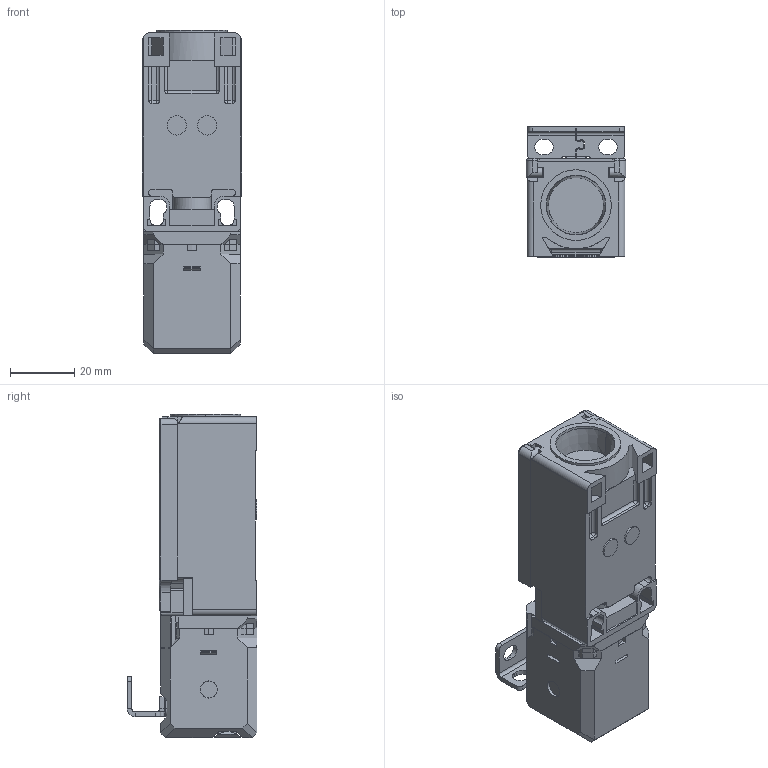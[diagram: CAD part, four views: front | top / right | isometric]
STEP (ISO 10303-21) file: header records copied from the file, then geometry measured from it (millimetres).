
FILE_DESCRIPTION((''),'2;1');
FILE_NAME('SKI_A2Z_M3_ASM','2009-09-21T',('g.stock'),(''),'PRO/ENGINEER BY PARAMETRIC TECHNOLOGY CORPORATION, 2005070','PRO/ENGINEER BY PARAMETRIC TECHNOLOGY CORPORATION, 2005070','');
FILE_SCHEMA(('AUTOMOTIVE_DESIGN_CC2 { 1 2 10303 214 -1 1 5 2 }'));
Length unit declared in the file: millimetre
Products named in the file (17): 3505900597; 3908031333_002; 3908031333_001; 3908031333_ASM; 3515900376; 3505900558; 3515900255; 3013961110; 2626792163_EINBAU; 3595900056; 2600000273_001; 2600000273_002; 2600000273_ASM; 3230750071; SKI_A2Z_ASM; 3112850340; SKI_A2Z_M3_ASM
Assembly tree (19 placements, depth 4):
  SKI_A2Z_M3_ASM
    SKI_A2Z_ASM
      3505900597
      3908031333_ASM
        3908031333_002
        3908031333_001
      3515900376
      3505900558
      3515900255
      3013961110
      2626792163_EINBAU
      3595900056
      2600000273_ASM  x4
        2600000273_001
        2600000273_002
      3230750071
    3112850340
Bounding box: 31 x 40.48 x 100.7 mm (x, y, z)
Volume: 44033.2 mm3; surface area: 46201.1 mm2
Topology: 19 solids, 19 shells, 1723 faces, 4436 edges, 2802 vertices
Faces by surface type: plane 995, cylinder 549, cone 68, sphere 68, torus 39, bspline 4
Entity records: 61582 total; most frequent: CARTESIAN_POINT 9473, DIRECTION 8284, ORIENTED_EDGE 8176, PRESENTATION_STYLE_ASSIGNMENT 4101, STYLED_ITEM 4101, CURVE_STYLE 4088, EDGE_CURVE 4088, VECTOR 2846
